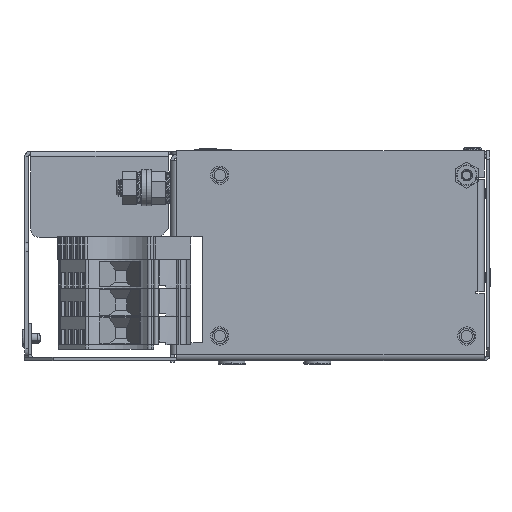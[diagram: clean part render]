
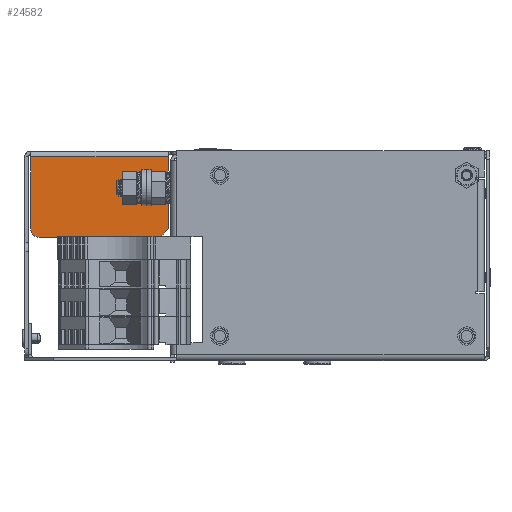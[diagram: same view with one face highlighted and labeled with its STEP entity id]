
A CAD part, left-side view. The second image highlights one B-rep face of the part: STEP entity #24582.
In plain terms, the highlighted planar face has unit normal (-1, 0, 0).
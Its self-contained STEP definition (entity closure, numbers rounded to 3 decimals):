
#1101 = VERTEX_POINT ( 'NONE', #51130 ) ;
#6747 = DIRECTION ( 'NONE',  ( 0., -1., 0. ) ) ;
#7019 = DIRECTION ( 'NONE',  ( -1., 0., 0. ) ) ;
#7217 = CARTESIAN_POINT ( 'NONE',  ( -8.572, 160.2, -47.796 ) ) ;
#8410 = VECTOR ( 'NONE', #6747, 1000. ) ;
#10891 = EDGE_CURVE ( 'NONE', #53791, #39972, #45428, .T. ) ;
#11694 = VECTOR ( 'NONE', #38329, 1000. ) ;
#14908 = EDGE_CURVE ( 'NONE', #32076, #28442, #50877, .T. ) ;
#17925 = FACE_OUTER_BOUND ( 'NONE', #56225, .T. ) ;
#18086 = VECTOR ( 'NONE', #30840, 1000. ) ;
#18323 = ORIENTED_EDGE ( 'NONE', *, *, #10891, .T. ) ;
#20758 = CARTESIAN_POINT ( 'NONE',  ( -8.572, 112.2, -19.796 ) ) ;
#21344 = ORIENTED_EDGE ( 'NONE', *, *, #23296, .T. ) ;
#22015 = CARTESIAN_POINT ( 'NONE',  ( -8.572, 157.2, -47.796 ) ) ;
#22797 = ORIENTED_EDGE ( 'NONE', *, *, #55303, .T. ) ;
#23296 = EDGE_CURVE ( 'NONE', #39972, #1101, #28577, .T. ) ;
#24582 = ADVANCED_FACE ( 'NONE', ( #17925 ), #40206, .T. ) ;
#24931 = LINE ( 'NONE', #7217, #11694 ) ;
#25012 = ORIENTED_EDGE ( 'NONE', *, *, #14908, .T. ) ;
#27007 = DIRECTION ( 'NONE',  ( 0., 0., 1. ) ) ;
#27621 = ORIENTED_EDGE ( 'NONE', *, *, #41669, .T. ) ;
#27832 = LINE ( 'NONE', #56818, #41031 ) ;
#28442 = VERTEX_POINT ( 'NONE', #22015 ) ;
#28577 = LINE ( 'NONE', #57479, #18086 ) ;
#29840 = CARTESIAN_POINT ( 'NONE',  ( -8.572, 115.2, -47.796 ) ) ;
#30323 = CARTESIAN_POINT ( 'NONE',  ( -8.572, 160.2, -44.796 ) ) ;
#30840 = DIRECTION ( 'NONE',  ( 0., 1., 0. ) ) ;
#31780 = CARTESIAN_POINT ( 'NONE',  ( -8.572, 112.2, -47.796 ) ) ;
#32076 = VERTEX_POINT ( 'NONE', #30323 ) ;
#33379 = CARTESIAN_POINT ( 'NONE',  ( -8.572, 160.2, -47.796 ) ) ;
#33452 = LINE ( 'NONE', #33379, #8410 ) ;
#33561 = VECTOR ( 'NONE', #40734, 1000. ) ;
#33648 = CARTESIAN_POINT ( 'NONE',  ( -8.572, 157.2, -44.796 ) ) ;
#36612 = CARTESIAN_POINT ( 'NONE',  ( -8.572, 112.2, -44.796 ) ) ;
#37265 = EDGE_CURVE ( 'NONE', #1101, #32076, #24931, .T. ) ;
#38134 = DIRECTION ( 'NONE',  ( 0., 0., 1. ) ) ;
#38329 = DIRECTION ( 'NONE',  ( 0., 0., -1. ) ) ;
#39972 = VERTEX_POINT ( 'NONE', #20758 ) ;
#40206 = PLANE ( 'NONE',  #54842 ) ;
#40734 = DIRECTION ( 'NONE',  ( 0., 0., 1. ) ) ;
#41031 = VECTOR ( 'NONE', #43421, 1000. ) ;
#41669 = EDGE_CURVE ( 'NONE', #50025, #53791, #27832, .T. ) ;
#43421 = DIRECTION ( 'NONE',  ( 0., -0.707, 0.707 ) ) ;
#44709 = CARTESIAN_POINT ( 'NONE',  ( -8.572, 160.2, -47.796 ) ) ;
#45428 = LINE ( 'NONE', #31780, #33561 ) ;
#50025 = VERTEX_POINT ( 'NONE', #29840 ) ;
#50877 = CIRCLE ( 'NONE', #54412, 3. ) ;
#51130 = CARTESIAN_POINT ( 'NONE',  ( -8.572, 160.2, -19.796 ) ) ;
#53637 = DIRECTION ( 'NONE',  ( -1., 0., 0. ) ) ;
#53791 = VERTEX_POINT ( 'NONE', #36612 ) ;
#54412 = AXIS2_PLACEMENT_3D ( 'NONE', #33648, #7019, #38134 ) ;
#54478 = ORIENTED_EDGE ( 'NONE', *, *, #37265, .T. ) ;
#54842 = AXIS2_PLACEMENT_3D ( 'NONE', #44709, #53637, #27007 ) ;
#55303 = EDGE_CURVE ( 'NONE', #28442, #50025, #33452, .T. ) ;
#56225 = EDGE_LOOP ( 'NONE', ( #54478, #25012, #22797, #27621, #18323, #21344 ) ) ;
#56818 = CARTESIAN_POINT ( 'NONE',  ( -8.572, 137.7, -70.296 ) ) ;
#57479 = CARTESIAN_POINT ( 'NONE',  ( -8.572, 160.2, -19.796 ) ) ;
